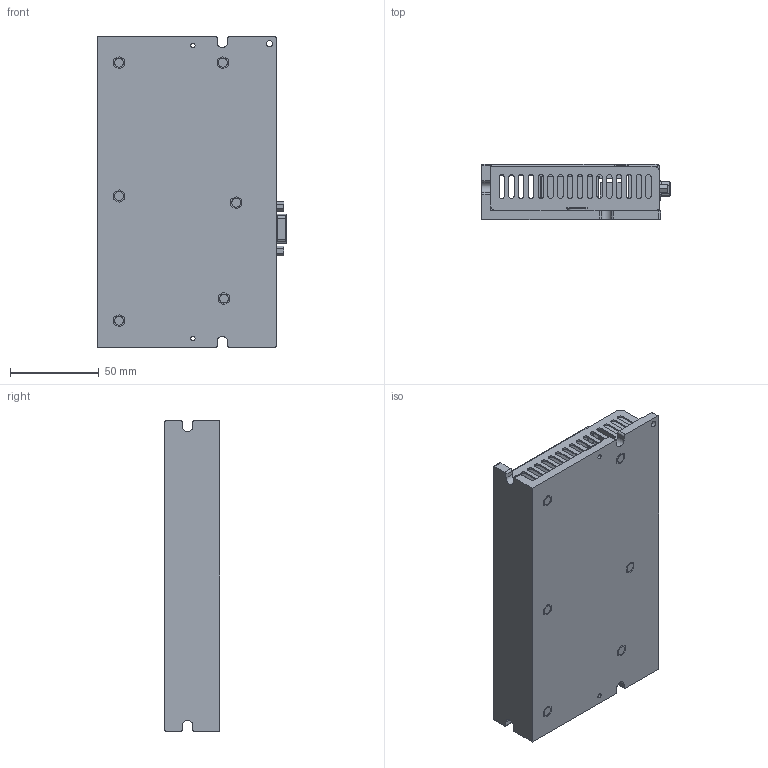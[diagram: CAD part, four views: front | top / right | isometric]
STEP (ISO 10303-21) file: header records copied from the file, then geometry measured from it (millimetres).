
FILE_DESCRIPTION((''),'2;1');
FILE_NAME('000-FD135-AYYED','2024-01-26T16:12:02',('RD0060'),(''),'CREO PARAMETRIC BY PTC INC, 2016510','CREO PARAMETRIC BY PTC INC, 2016510','');
FILE_SCHEMA(('CONFIG_CONTROL_DESIGN'));
Length unit declared in the file: millimetre
Products named in the file (1): 000-FD135-AYYED
Bounding box: 105.93 x 31 x 174.65 mm (x, y, z)
Surface area: 108353 mm2 (no closed solid volume)
Topology: 0 solids, 28 shells, 1505 faces, 4950 edges, 3357 vertices
Faces by surface type: plane 1061, cylinder 408, revolution 16, extrusion 9, torus 8, bspline 3
Entity records: 55159 total; most frequent: CARTESIAN_POINT 12586, ORIENTED_EDGE 8652, DIRECTION 8201, EDGE_CURVE 4950, VECTOR 3817, LINE 3808, VERTEX_POINT 3357, AXIS2_PLACEMENT_3D 2184
